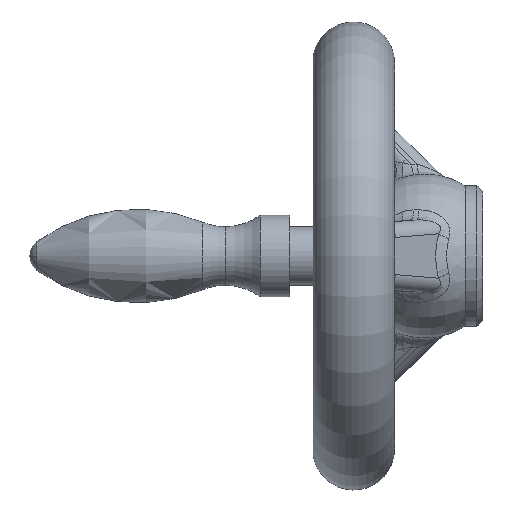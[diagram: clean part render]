
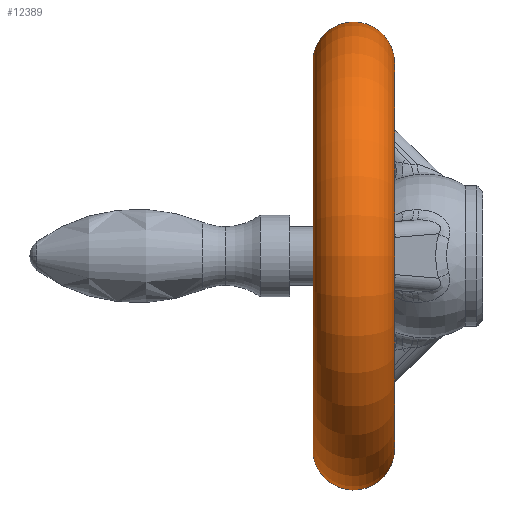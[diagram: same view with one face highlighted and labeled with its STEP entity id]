
A CAD part, left-side view. The second image highlights one B-rep face of the part: STEP entity #12389.
In plain terms, the highlighted toroidal (fillet/blend) face has major radius 33 mm and minor radius 7 mm.
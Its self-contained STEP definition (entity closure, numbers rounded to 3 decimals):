
#75 = EDGE_CURVE ( 'NONE', #219, #160, #1980, .T. ) ;
#160 = VERTEX_POINT ( 'NONE', #2006 ) ;
#219 = VERTEX_POINT ( 'NONE', #1994 ) ;
#1956 = DIRECTION ( 'NONE',  ( 0., 0., -1. ) ) ;
#1957 = DIRECTION ( 'NONE',  ( 0., -1., 0. ) ) ;
#1959 = CARTESIAN_POINT ( 'NONE',  ( 0., 29., 0. ) ) ;
#1960 = AXIS2_PLACEMENT_3D ( 'NONE', #1959, #1957, #1956 ) ;
#1980 = CIRCLE ( 'NONE', #1960, 34. ) ;
#1994 = CARTESIAN_POINT ( 'NONE',  ( 0., 29., 34. ) ) ;
#2006 = CARTESIAN_POINT ( 'NONE',  ( 0., 29., -34. ) ) ;
#6969 = CARTESIAN_POINT ( 'NONE',  ( 0., 15.076, 33.25 ) ) ;
#7031 = CARTESIAN_POINT ( 'NONE',  ( 0., 15.076, -33.25 ) ) ;
#7051 = CARTESIAN_POINT ( 'NONE',  ( 0., 22.072, 33. ) ) ;
#7052 = CIRCLE ( 'NONE', #7134, 33.25 ) ;
#7054 = DIRECTION ( 'NONE',  ( 1., 0., 0. ) ) ;
#7055 = AXIS2_PLACEMENT_3D ( 'NONE', #7051, #7054, #7114 ) ;
#7067 = CIRCLE ( 'NONE', #7055, 7. ) ;
#7114 = DIRECTION ( 'NONE',  ( 0., 0., -1. ) ) ;
#7131 = DIRECTION ( 'NONE',  ( 0., 0., -1. ) ) ;
#7132 = DIRECTION ( 'NONE',  ( 0., -1., 0. ) ) ;
#7133 = CARTESIAN_POINT ( 'NONE',  ( 0., 15.076, 0. ) ) ;
#7134 = AXIS2_PLACEMENT_3D ( 'NONE', #7133, #7132, #7131 ) ;
#7311 = CIRCLE ( 'NONE', #7474, 7. ) ;
#7471 = DIRECTION ( 'NONE',  ( 0., 0., 1. ) ) ;
#7472 = DIRECTION ( 'NONE',  ( -1., 0., 0. ) ) ;
#7473 = CARTESIAN_POINT ( 'NONE',  ( 0., 22.072, -33. ) ) ;
#7474 = AXIS2_PLACEMENT_3D ( 'NONE', #7473, #7472, #7471 ) ;
#10082 = VERTEX_POINT ( 'NONE', #6969 ) ;
#10157 = VERTEX_POINT ( 'NONE', #7031 ) ;
#10239 = EDGE_CURVE ( 'NONE', #219, #10082, #7067, .T. ) ;
#10246 = EDGE_CURVE ( 'NONE', #10082, #10157, #7052, .T. ) ;
#10401 = EDGE_CURVE ( 'NONE', #160, #10157, #7311, .T. ) ;
#12381 = ORIENTED_EDGE ( 'NONE', *, *, #10401, .T. ) ;
#12389 = ADVANCED_FACE ( 'NONE', ( #15532 ), #15515, .T. ) ;
#12395 = ORIENTED_EDGE ( 'NONE', *, *, #75, .T. ) ;
#12454 = ORIENTED_EDGE ( 'NONE', *, *, #10246, .F. ) ;
#12605 = ORIENTED_EDGE ( 'NONE', *, *, #10239, .F. ) ;
#12607 = EDGE_LOOP ( 'NONE', ( #12605, #12395, #12381, #12454 ) ) ;
#15515 = TOROIDAL_SURFACE ( 'NONE', #15619, 33., 7. ) ;
#15532 = FACE_OUTER_BOUND ( 'NONE', #12607, .T. ) ;
#15616 = DIRECTION ( 'NONE',  ( 0., 0., -1. ) ) ;
#15617 = DIRECTION ( 'NONE',  ( 0., -1., 0. ) ) ;
#15618 = CARTESIAN_POINT ( 'NONE',  ( 0., 22.072, 0. ) ) ;
#15619 = AXIS2_PLACEMENT_3D ( 'NONE', #15618, #15617, #15616 ) ;
